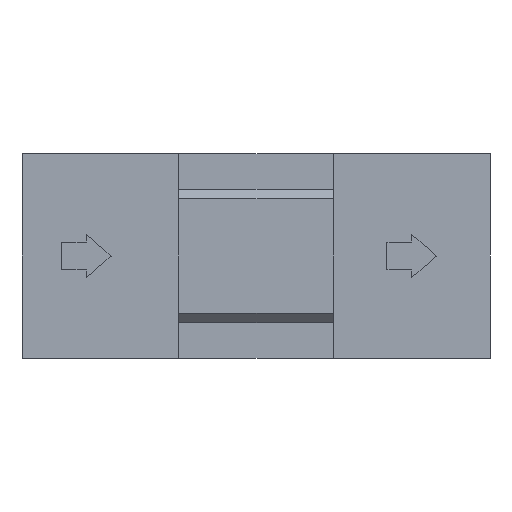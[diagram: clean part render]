
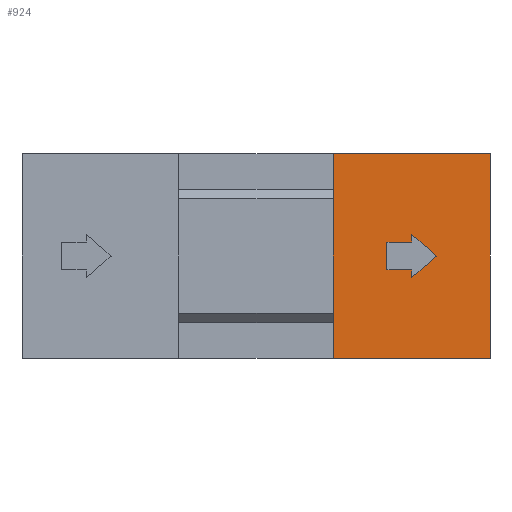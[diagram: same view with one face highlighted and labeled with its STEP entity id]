
A CAD part, left-side view. The second image highlights one B-rep face of the part: STEP entity #924.
In plain terms, the highlighted planar face has unit normal (-1, 0, 0).
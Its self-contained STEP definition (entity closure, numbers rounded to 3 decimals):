
#15=LINE('',#1235,#129);
#19=LINE('',#1243,#133);
#22=LINE('',#1249,#136);
#25=LINE('',#1255,#139);
#28=LINE('',#1261,#142);
#31=LINE('',#1267,#145);
#34=LINE('',#1272,#148);
#86=LINE('',#1385,#200);
#120=LINE('',#1454,#234);
#123=LINE('',#1467,#237);
#127=LINE('',#1473,#241);
#129=VECTOR('',#1006,10.);
#133=VECTOR('',#1012,10.);
#136=VECTOR('',#1017,10.);
#139=VECTOR('',#1022,10.);
#142=VECTOR('',#1027,10.);
#145=VECTOR('',#1032,10.);
#148=VECTOR('',#1037,10.);
#200=VECTOR('',#1127,10.);
#234=VECTOR('',#1189,10.);
#237=VECTOR('',#1206,10.);
#241=VECTOR('',#1212,10.);
#283=PLANE('',#984);
#302=FACE_BOUND('',#410,.T.);
#349=FACE_OUTER_BOUND('',#409,.T.);
#409=EDGE_LOOP('',(#840,#841,#842,#843));
#410=EDGE_LOOP('',(#844,#845,#846,#847,#848,#849,#850));
#428=VERTEX_POINT('',#1233);
#429=VERTEX_POINT('',#1234);
#432=VERTEX_POINT('',#1242);
#434=VERTEX_POINT('',#1248);
#436=VERTEX_POINT('',#1254);
#438=VERTEX_POINT('',#1260);
#440=VERTEX_POINT('',#1266);
#482=VERTEX_POINT('',#1382);
#483=VERTEX_POINT('',#1384);
#504=VERTEX_POINT('',#1452);
#507=VERTEX_POINT('',#1466);
#513=EDGE_CURVE('',#428,#429,#15,.T.);
#517=EDGE_CURVE('',#429,#432,#19,.T.);
#520=EDGE_CURVE('',#432,#434,#22,.T.);
#523=EDGE_CURVE('',#434,#436,#25,.T.);
#526=EDGE_CURVE('',#436,#438,#28,.T.);
#529=EDGE_CURVE('',#438,#440,#31,.T.);
#532=EDGE_CURVE('',#440,#428,#34,.T.);
#586=EDGE_CURVE('',#482,#483,#86,.T.);
#622=EDGE_CURVE('',#504,#482,#120,.T.);
#626=EDGE_CURVE('',#483,#507,#123,.T.);
#630=EDGE_CURVE('',#504,#507,#127,.T.);
#840=ORIENTED_EDGE('',*,*,#586,.F.);
#841=ORIENTED_EDGE('',*,*,#622,.F.);
#842=ORIENTED_EDGE('',*,*,#630,.T.);
#843=ORIENTED_EDGE('',*,*,#626,.F.);
#844=ORIENTED_EDGE('',*,*,#513,.T.);
#845=ORIENTED_EDGE('',*,*,#517,.T.);
#846=ORIENTED_EDGE('',*,*,#520,.T.);
#847=ORIENTED_EDGE('',*,*,#523,.T.);
#848=ORIENTED_EDGE('',*,*,#526,.T.);
#849=ORIENTED_EDGE('',*,*,#529,.T.);
#850=ORIENTED_EDGE('',*,*,#532,.T.);
#924=ADVANCED_FACE('',(#349,#302),#283,.T.);
#984=AXIS2_PLACEMENT_3D('',#1472,#1210,#1211);
#1006=DIRECTION('',(0.,0.,1.));
#1012=DIRECTION('',(0.,1.,0.));
#1017=DIRECTION('',(0.,0.,1.));
#1022=DIRECTION('',(0.,-1.,0.));
#1027=DIRECTION('',(0.,0.,1.));
#1032=DIRECTION('',(0.,-0.753,-0.659));
#1037=DIRECTION('',(0.,0.753,-0.659));
#1127=DIRECTION('',(0.,0.,-1.));
#1189=DIRECTION('',(0.,-1.,0.));
#1206=DIRECTION('',(0.,1.,0.));
#1210=DIRECTION('center_axis',(-1.,0.,0.));
#1211=DIRECTION('ref_axis',(0.,-1.,0.));
#1212=DIRECTION('',(0.,0.,-1.));
#1233=CARTESIAN_POINT('',(-8.1,-5.025,-0.7));
#1234=CARTESIAN_POINT('',(-8.1,-5.025,-0.45));
#1235=CARTESIAN_POINT('',(-8.1,-5.025,-0.225));
#1242=CARTESIAN_POINT('',(-8.1,-4.225,-0.45));
#1243=CARTESIAN_POINT('',(-8.1,-3.363,-0.45));
#1248=CARTESIAN_POINT('',(-8.1,-4.225,0.45));
#1249=CARTESIAN_POINT('',(-8.1,-4.225,0.225));
#1254=CARTESIAN_POINT('',(-8.1,-5.025,0.45));
#1255=CARTESIAN_POINT('',(-8.1,-3.763,0.45));
#1260=CARTESIAN_POINT('',(-8.1,-5.025,0.7));
#1261=CARTESIAN_POINT('',(-8.1,-5.025,0.35));
#1266=CARTESIAN_POINT('',(-8.1,-5.825,0.));
#1267=CARTESIAN_POINT('',(-8.1,-4.883,0.824));
#1272=CARTESIAN_POINT('',(-8.1,-4.483,-1.174));
#1382=CARTESIAN_POINT('',(-8.1,-7.55,3.3));
#1384=CARTESIAN_POINT('',(-8.1,-7.55,-3.3));
#1385=CARTESIAN_POINT('',(-8.1,-7.55,0.));
#1452=CARTESIAN_POINT('',(-8.1,-2.5,3.3));
#1454=CARTESIAN_POINT('',(-8.1,-7.55,3.3));
#1466=CARTESIAN_POINT('',(-8.1,-2.5,-3.3));
#1467=CARTESIAN_POINT('',(-8.1,-7.55,-3.3));
#1472=CARTESIAN_POINT('Origin',(-8.1,-2.5,0.));
#1473=CARTESIAN_POINT('',(-8.1,-2.5,0.));
